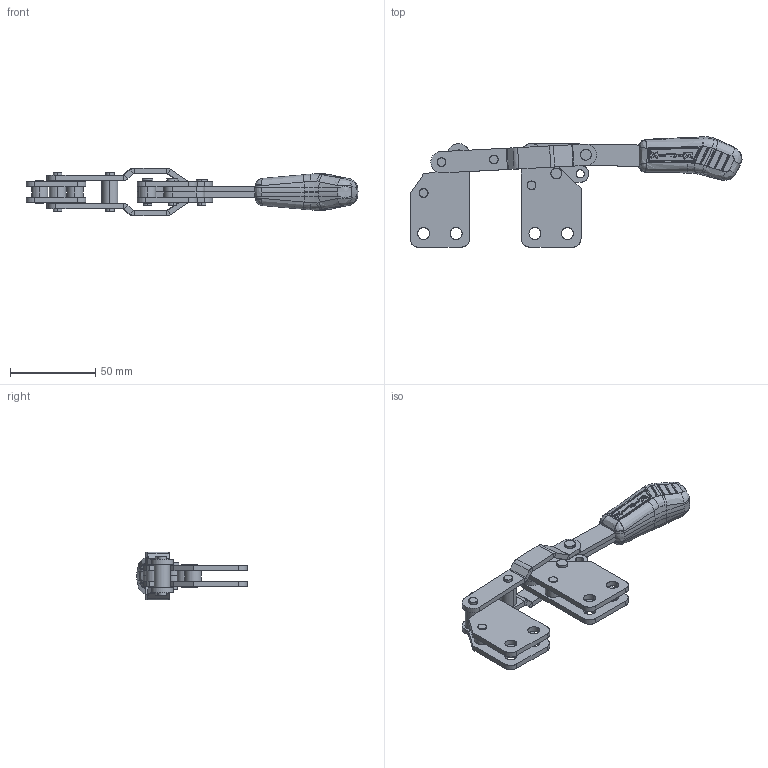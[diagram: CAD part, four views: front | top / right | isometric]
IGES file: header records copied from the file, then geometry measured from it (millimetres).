
Start section: SolidWorks IGES file using analytic representation for surfaces
Global section: file name: C:\Projetos\Grampos\KF-310\KF-310 R\KF-310 R.IGS; native system: SolidWorks 2013; preprocessor: SolidWorks 2013; author: Ricardo; date: 140822.134725; units: millimetre
Bounding box: 194.57 x 64.67 x 28 mm (x, y, z)
Surface area: 40765.6 mm2 (no closed solid volume)
Topology: 0 solids, 0 shells, 912 faces, 10391 edges, 10331 vertices
Faces by surface type: bspline 526, revolution 386
